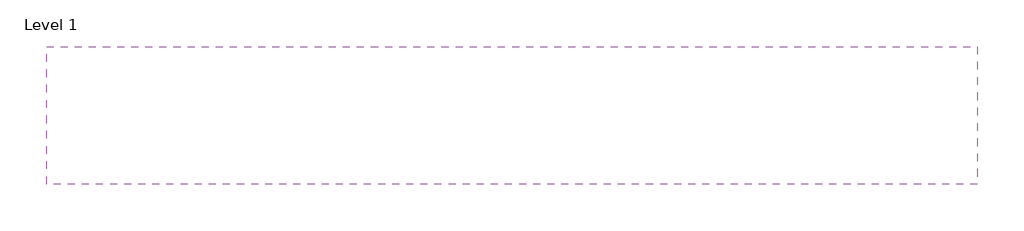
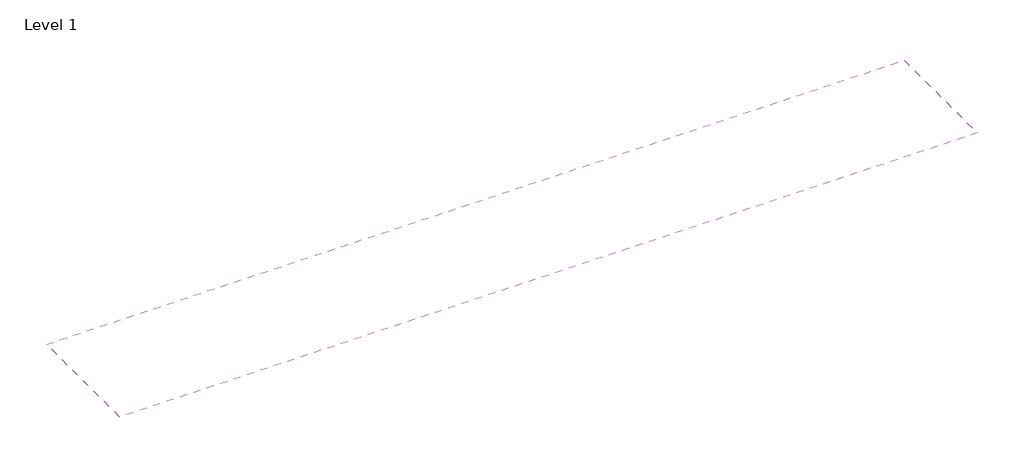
# One storey, incomplete: 1 covering.
"""IFC4 building model written with IfcOpenShell, lengths in millimetres."""

from ifc_helpers import new_model, si_unit, frame, origin, place, context, project, spatial, polyline, outline, extrude, element, save

model = new_model("IFC4")

# Units and contexts
model_context = context("Model", 3, world=origin())
ifc_project = project(units=[si_unit("LENGTHUNIT", "METRE", prefix="MILLI")], contexts=[model_context])

# Site, building, storey
site = spatial("IfcSite", under=ifc_project)
building = spatial("IfcBuilding", under=site)
storey = spatial("IfcBuildingStorey", under=building, Name="Level 1", Elevation=0.0)

# Covering
placement = place(None, origin())
element("IfcCovering", 1, ObjectType="Plain", at=placement, inside=storey, context=model_context, shape_type="SweptSolid", body=[
    extrude(outline(polyline([(-243.8749027, -1174.7460136), (-243.8749027, -1674.7460136), (-3623.8749027, -1674.7460136), (-3623.8749027, -1174.7460136), (-243.8749027, -1174.7460136)])), frame((0.0, 0.0, 2634.267684), z_axis=(0.0, 0.0, 1.0), x_axis=(1.0, 0.0, 0.0)), (0.0, 0.0, 1.0), 57.0),
])

save(model, "model.ifc")
